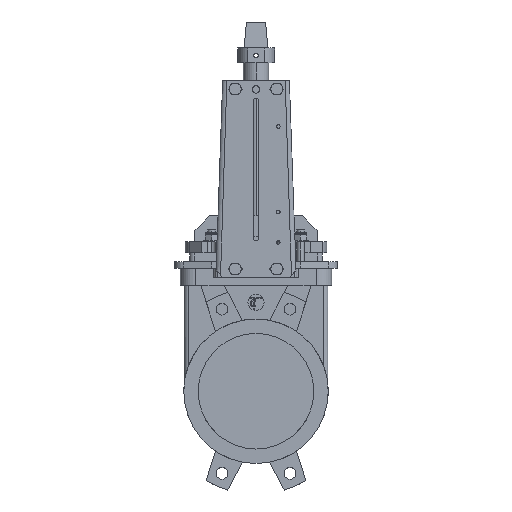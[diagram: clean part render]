
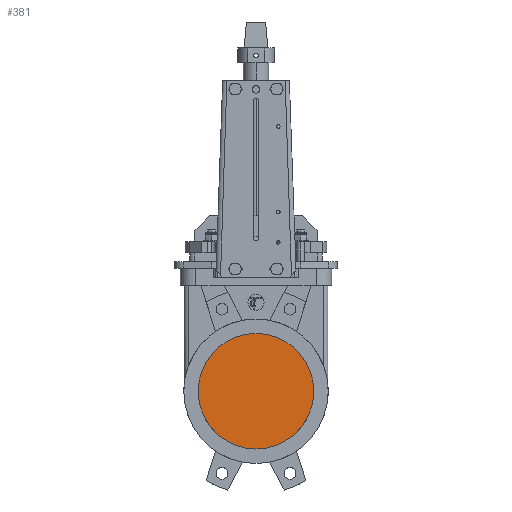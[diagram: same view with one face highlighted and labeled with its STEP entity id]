
A CAD part, top view. The second image highlights one B-rep face of the part: STEP entity #381.
In plain terms, the highlighted planar face has unit normal (0, 0, 1).
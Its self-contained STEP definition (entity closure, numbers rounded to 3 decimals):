
#10 = VERTEX_POINT ( 'NONE', #21461 ) ;
#333 = VERTEX_POINT ( 'NONE', #3547 ) ;
#339 = EDGE_CURVE ( 'NONE', #333, #2074, #3536, .T. ) ;
#361 = ORIENTED_EDGE ( 'NONE', *, *, #19888, .T. ) ;
#377 = EDGE_LOOP ( 'NONE', ( #383, #361, #19780, #19714, #19774, #19748 ) ) ;
#378 = EDGE_CURVE ( 'NONE', #10, #19891, #3621, .T. ) ;
#380 = VERTEX_POINT ( 'NONE', #3617 ) ;
#381 = ADVANCED_FACE ( 'NONE', ( #3614 ), #3613, .T. ) ;
#383 = ORIENTED_EDGE ( 'NONE', *, *, #378, .T. ) ;
#415 = EDGE_CURVE ( 'NONE', #333, #380, #3700, .T. ) ;
#2069 = EDGE_CURVE ( 'NONE', #2074, #10, #6757, .T. ) ;
#2074 = VERTEX_POINT ( 'NONE', #6808 ) ;
#3532 = DIRECTION ( 'NONE',  ( 1., 0., 0. ) ) ;
#3533 = DIRECTION ( 'NONE',  ( 0., 0., 1. ) ) ;
#3535 = AXIS2_PLACEMENT_3D ( 'NONE', #3541, #3533, #3532 ) ;
#3536 = CIRCLE ( 'NONE', #3535, 80. ) ;
#3541 = CARTESIAN_POINT ( 'NONE',  ( 0., 0., 3. ) ) ;
#3547 = CARTESIAN_POINT ( 'NONE',  ( -80., 0., 3. ) ) ;
#3608 = DIRECTION ( 'NONE',  ( 1., 0., 0. ) ) ;
#3609 = DIRECTION ( 'NONE',  ( 0., 0., 1. ) ) ;
#3610 = CARTESIAN_POINT ( 'NONE',  ( -82.5, -133.225, 3. ) ) ;
#3612 = AXIS2_PLACEMENT_3D ( 'NONE', #3610, #3609, #3608 ) ;
#3613 = PLANE ( 'NONE',  #3612 ) ;
#3614 = FACE_OUTER_BOUND ( 'NONE', #377, .T. ) ;
#3617 = CARTESIAN_POINT ( 'NONE',  ( -82.5, 0., 3. ) ) ;
#3618 = DIRECTION ( 'NONE',  ( 0., 1., 0. ) ) ;
#3619 = VECTOR ( 'NONE', #3618, 1000. ) ;
#3620 = CARTESIAN_POINT ( 'NONE',  ( 82.5, -133.225, 3. ) ) ;
#3621 = LINE ( 'NONE', #3620, #3619 ) ;
#3697 = DIRECTION ( 'NONE',  ( -1., 0., 0. ) ) ;
#3698 = VECTOR ( 'NONE', #3697, 1000. ) ;
#3699 = CARTESIAN_POINT ( 'NONE',  ( -85., 0., 3. ) ) ;
#3700 = LINE ( 'NONE', #3699, #3698 ) ;
#6754 = DIRECTION ( 'NONE',  ( 1., 0., 0. ) ) ;
#6755 = VECTOR ( 'NONE', #6754, 1000. ) ;
#6756 = CARTESIAN_POINT ( 'NONE',  ( 85., 0., 3. ) ) ;
#6757 = LINE ( 'NONE', #6756, #6755 ) ;
#6808 = CARTESIAN_POINT ( 'NONE',  ( 80., 0., 3. ) ) ;
#12703 = DIRECTION ( 'NONE',  ( 0., 1., 0. ) ) ;
#12704 = VECTOR ( 'NONE', #12703, 1000. ) ;
#12705 = CARTESIAN_POINT ( 'NONE',  ( -82.5, -133.225, 3. ) ) ;
#12706 = LINE ( 'NONE', #12705, #12704 ) ;
#12870 = CARTESIAN_POINT ( 'NONE',  ( 82.5, 33.388, 3. ) ) ;
#12871 = DIRECTION ( 'NONE',  ( 1., 0., 0. ) ) ;
#12872 = DIRECTION ( 'NONE',  ( 0., 0., 1. ) ) ;
#12873 = CARTESIAN_POINT ( 'NONE',  ( 0., 0., 3. ) ) ;
#12874 = AXIS2_PLACEMENT_3D ( 'NONE', #12873, #12872, #12871 ) ;
#12875 = CIRCLE ( 'NONE', #12874, 89. ) ;
#12877 = CARTESIAN_POINT ( 'NONE',  ( -82.5, 33.388, 3. ) ) ;
#19714 = ORIENTED_EDGE ( 'NONE', *, *, #415, .F. ) ;
#19748 = ORIENTED_EDGE ( 'NONE', *, *, #2069, .T. ) ;
#19766 = EDGE_CURVE ( 'NONE', #380, #19885, #12706, .T. ) ;
#19774 = ORIENTED_EDGE ( 'NONE', *, *, #339, .T. ) ;
#19780 = ORIENTED_EDGE ( 'NONE', *, *, #19766, .F. ) ;
#19885 = VERTEX_POINT ( 'NONE', #12877 ) ;
#19888 = EDGE_CURVE ( 'NONE', #19891, #19885, #12875, .T. ) ;
#19891 = VERTEX_POINT ( 'NONE', #12870 ) ;
#21461 = CARTESIAN_POINT ( 'NONE',  ( 82.5, 0., 3. ) ) ;
